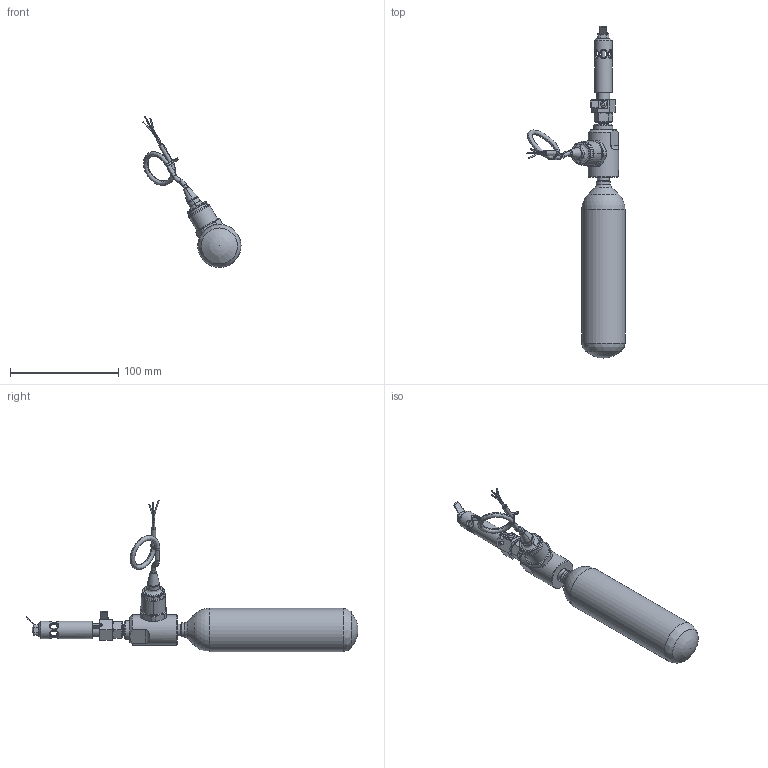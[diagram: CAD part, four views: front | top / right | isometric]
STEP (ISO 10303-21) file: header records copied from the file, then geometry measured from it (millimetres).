
FILE_DESCRIPTION(/* description */ (''),/* implementation_level */ '2;1');
FILE_NAME(/* name */ '40-057-20-31-02 - S-AMFE & R-AMFE - cylinder size 2 and pressure sensor (cable).stp',/* time_stamp */ '2025-03-26T16:18:54+01:00',/* author */ ('ASc'),/* organization */ (''),/* preprocessor_version */ 'ST-DEVELOPER v19.2',/* originating_system */ 'Autodesk Inventor 2023',/* authorisation */ '');
FILE_SCHEMA (('AUTOMOTIVE_DESIGN { 1 0 10303 214 3 1 1 }'));
Length unit declared in the file: millimetre
Products named in the file (1): 40-057-20-31-02_Vereinfachen_1
Bounding box: 90.6 x 306.7 x 139.7 mm (x, y, z)
Volume: 241500.2 mm3; surface area: 37675 mm2
Topology: 1 solids, 1 shells, 287 faces, 792 edges, 514 vertices
Faces by surface type: bspline 116, plane 106, cylinder 32, cone 29, torus 3, sphere 1
Full cylindrical faces by diameter (mm): 2.9 x1, 5.7 x2, 6.5 x6, 9.4 x1, 11 x1, 11.9 x1, 12 x1, 12.5 x1, 13 x1, 15 x1, 16 x1, 17.5 x1, 28 x1, 40 x1
Entity records: 17878 total; most frequent: CARTESIAN_POINT 10897, ORIENTED_EDGE 1580, DIRECTION 1015, EDGE_CURVE 790, VERTEX_POINT 514, AXIS2_PLACEMENT_3D 377, EDGE_LOOP 318, B_SPLINE_CURVE_WITH_KNOTS 294
